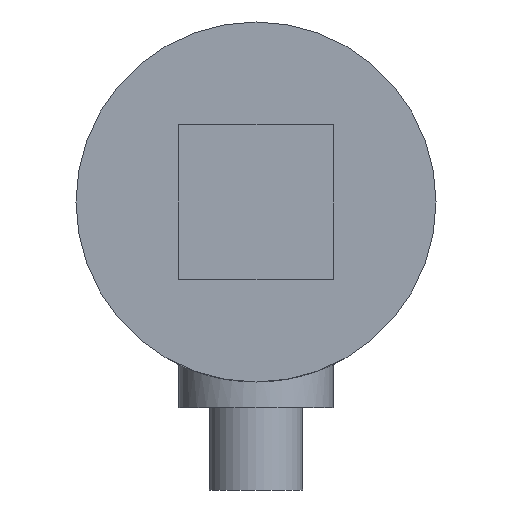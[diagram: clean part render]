
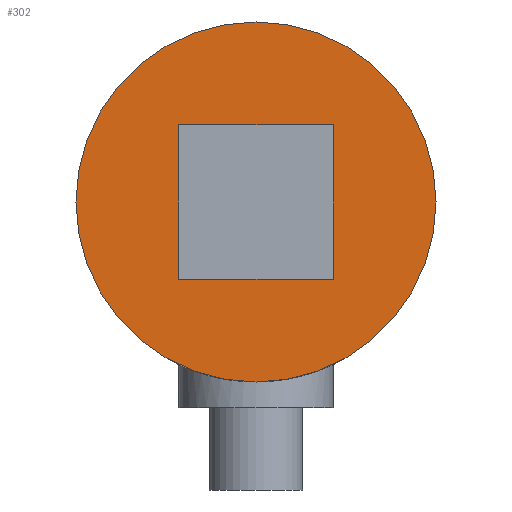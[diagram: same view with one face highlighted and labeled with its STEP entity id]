
A CAD part, front view. The second image highlights one B-rep face of the part: STEP entity #302.
In plain terms, the highlighted planar face has unit normal (0, -1, 0).
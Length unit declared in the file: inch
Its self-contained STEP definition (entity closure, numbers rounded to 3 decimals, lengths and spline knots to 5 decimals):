
#40 = EDGE_CURVE ( 'NONE', #1129, #1110, #874, .T. ) ;
#49 = EDGE_CURVE ( 'NONE', #1139, #1132, #924, .T. ) ;
#53 = EDGE_CURVE ( 'NONE', #1132, #1129, #884, .T. ) ;
#56 = EDGE_CURVE ( 'NONE', #1254, #1272, #887, .T. ) ;
#85 = EDGE_CURVE ( 'NONE', #1272, #1254, #984, .T. ) ;
#94 = CARTESIAN_POINT ( 'NONE',  ( -0.375, 0., 0.375 ) ) ;
#126 = CARTESIAN_POINT ( 'NONE',  ( 0., 0., -0.875 ) ) ;
#131 = CARTESIAN_POINT ( 'NONE',  ( 0., 0., 0.875 ) ) ;
#137 = CARTESIAN_POINT ( 'NONE',  ( -0.375, 0., -0.375 ) ) ;
#302 = ADVANCED_FACE ( 'NONE', ( #950, #982 ), #1345, .F. ) ;
#366 = AXIS2_PLACEMENT_3D ( 'NONE', #1344, #1341, #1352 ) ;
#379 = AXIS2_PLACEMENT_3D ( 'NONE', #1491, #1495, #1508 ) ;
#429 = EDGE_CURVE ( 'NONE', #1110, #1139, #546, .T. ) ;
#481 = CARTESIAN_POINT ( 'NONE',  ( 0.375, 0., 0.375 ) ) ;
#511 = AXIS2_PLACEMENT_3D ( 'NONE', #1192, #1194, #1206 ) ;
#530 = VECTOR ( 'NONE', #1023, 39.37008 ) ;
#546 = LINE ( 'NONE', #1028, #530 ) ;
#708 = ORIENTED_EDGE ( 'NONE', *, *, #429, .F. ) ;
#711 = ORIENTED_EDGE ( 'NONE', *, *, #56, .F. ) ;
#718 = ORIENTED_EDGE ( 'NONE', *, *, #53, .F. ) ;
#725 = ORIENTED_EDGE ( 'NONE', *, *, #40, .F. ) ;
#742 = ORIENTED_EDGE ( 'NONE', *, *, #85, .F. ) ;
#745 = ORIENTED_EDGE ( 'NONE', *, *, #49, .F. ) ;
#788 = EDGE_LOOP ( 'NONE', ( #711, #742 ) ) ;
#794 = EDGE_LOOP ( 'NONE', ( #718, #745, #708, #725 ) ) ;
#827 = VECTOR ( 'NONE', #1165, 39.37008 ) ;
#874 = LINE ( 'NONE', #1155, #827 ) ;
#884 = LINE ( 'NONE', #1175, #914 ) ;
#887 = CIRCLE ( 'NONE', #511, 0.875 ) ;
#914 = VECTOR ( 'NONE', #1186, 39.37008 ) ;
#920 = VECTOR ( 'NONE', #1180, 39.37008 ) ;
#924 = LINE ( 'NONE', #1198, #920 ) ;
#950 = FACE_BOUND ( 'NONE', #794, .T. ) ;
#982 = FACE_OUTER_BOUND ( 'NONE', #788, .T. ) ;
#984 = CIRCLE ( 'NONE', #379, 0.875 ) ;
#1022 = CARTESIAN_POINT ( 'NONE',  ( 0.375, 0., -0.375 ) ) ;
#1023 = DIRECTION ( 'NONE',  ( -1., 0., 0. ) ) ;
#1028 = CARTESIAN_POINT ( 'NONE',  ( 0.375, 0., 0.375 ) ) ;
#1110 = VERTEX_POINT ( 'NONE', #481 ) ;
#1129 = VERTEX_POINT ( 'NONE', #1022 ) ;
#1132 = VERTEX_POINT ( 'NONE', #137 ) ;
#1139 = VERTEX_POINT ( 'NONE', #94 ) ;
#1155 = CARTESIAN_POINT ( 'NONE',  ( 0.375, 0., -0.375 ) ) ;
#1165 = DIRECTION ( 'NONE',  ( 0., 0., 1. ) ) ;
#1175 = CARTESIAN_POINT ( 'NONE',  ( 0.375, 0., -0.375 ) ) ;
#1180 = DIRECTION ( 'NONE',  ( 0., 0., -1. ) ) ;
#1186 = DIRECTION ( 'NONE',  ( 1., 0., 0. ) ) ;
#1192 = CARTESIAN_POINT ( 'NONE',  ( 0., 0., 0. ) ) ;
#1194 = DIRECTION ( 'NONE',  ( 0., 1., 0. ) ) ;
#1198 = CARTESIAN_POINT ( 'NONE',  ( -0.375, 0., -0.375 ) ) ;
#1206 = DIRECTION ( 'NONE',  ( 0., 0., 1. ) ) ;
#1254 = VERTEX_POINT ( 'NONE', #126 ) ;
#1272 = VERTEX_POINT ( 'NONE', #131 ) ;
#1341 = DIRECTION ( 'NONE',  ( 0., 1., 0. ) ) ;
#1344 = CARTESIAN_POINT ( 'NONE',  ( 0., 0., 0. ) ) ;
#1345 = PLANE ( 'NONE',  #366 ) ;
#1352 = DIRECTION ( 'NONE',  ( 0., 0., 1. ) ) ;
#1491 = CARTESIAN_POINT ( 'NONE',  ( 0., 0., 0. ) ) ;
#1495 = DIRECTION ( 'NONE',  ( 0., 1., 0. ) ) ;
#1508 = DIRECTION ( 'NONE',  ( 0., 0., 1. ) ) ;
